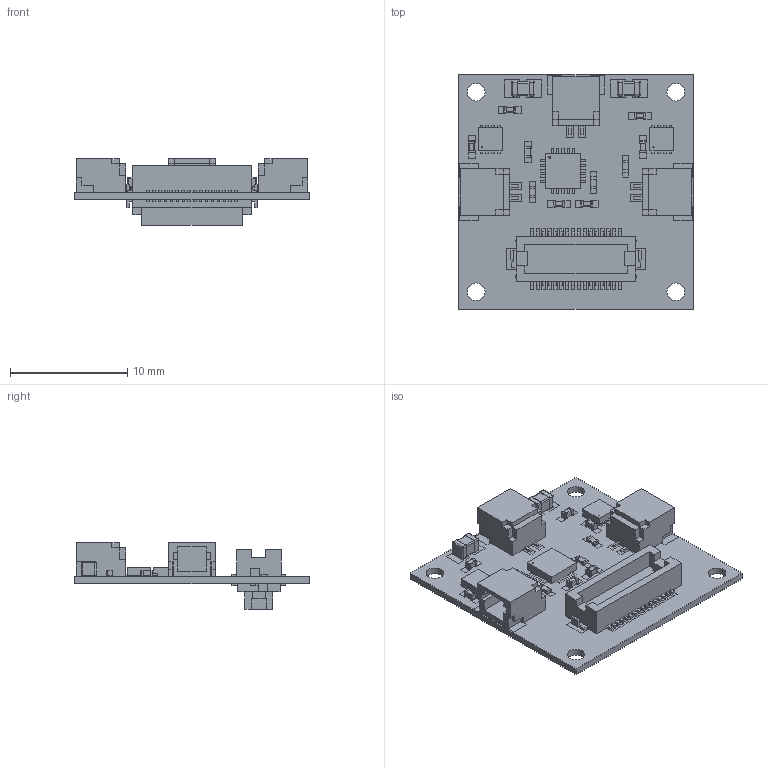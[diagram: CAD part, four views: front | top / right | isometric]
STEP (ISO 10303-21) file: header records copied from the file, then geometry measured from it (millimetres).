
FILE_DESCRIPTION(('FreeCAD Model'),'2;1');
FILE_NAME('/home/devy/MEGA/TinyCircuits/Assets/BoardsANDBoardModels/Shields/TinyCircuits-TinyShield-Dual-Motor-ASD2302/cad/TinyShield_MOTOR_STEP_ASD2302_REV3.step','2020-07-07T19:47:32',('Author'),(''), 'Open CASCADE STEP processor 7.4','FreeCAD','Unknown');
FILE_SCHEMA(('AUTOMOTIVE_DESIGN { 1 0 10303 214 1 1 1 1 }'));
Products named in the file (1): TinyShield_MOTOR_STEP_ASD2302_REV3
Bounding box: 20 x 20 x 5.7 mm (x, y, z)
Volume: 922.8 mm3; surface area: 3674.5 mm2
Topology: 408 solids, 408 shells, 4490 faces, 12102 edges, 10050 vertices
Faces by surface type: plane 3956, cylinder 406, sphere 128
Full cylindrical faces by diameter (mm): 0.14 x2, 0.5 x8, 0.652 x8, 0.891 x36, 1.397 x24, 1.502 x8
Entity records: 315219 total; most frequent: CARTESIAN_POINT 51669, DIRECTION 41500, LINE 29188, VECTOR 29188, ORIENTED_EDGE 20300, PCURVE 20300, DEFINITIONAL_REPRESENTATION 20300, EDGE_CURVE 10150
